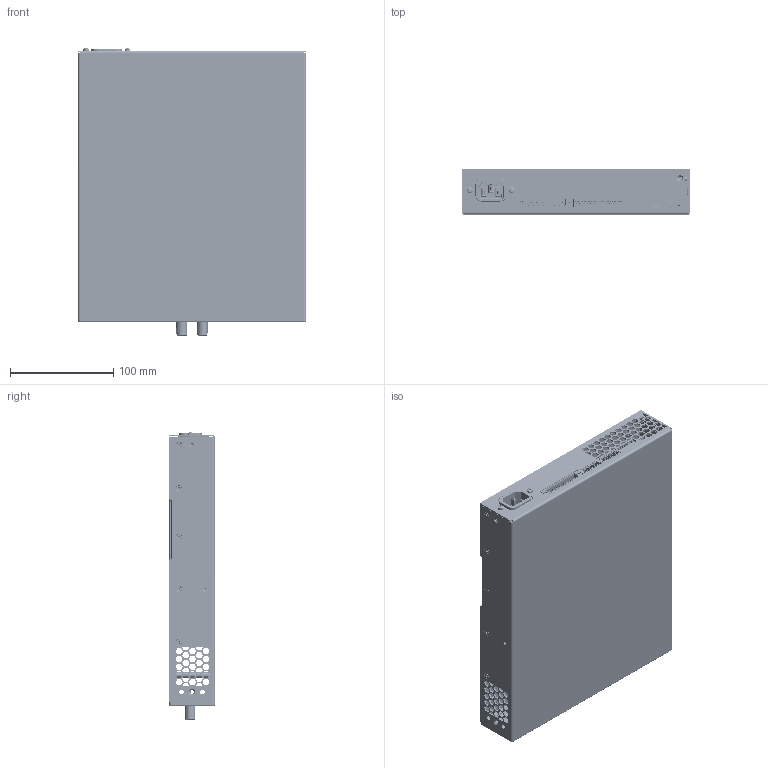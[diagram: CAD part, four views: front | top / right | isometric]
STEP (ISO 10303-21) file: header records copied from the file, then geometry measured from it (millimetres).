
FILE_DESCRIPTION (( 'STEP AP214' ), '1' );
FILE_NAME ('Blaze PowerZone 252 Amplifier.STEP', '2025-01-14T10:30:30', ( '' ), ( '' ), 'SwSTEP 2.0', 'SolidWorks 2024', '' );
FILE_SCHEMA (( 'AUTOMOTIVE_DESIGN' ));
Length unit declared in the file: millimetre
Products named in the file (2): for export_defeature^900-019-22; Blaze PowerZone 252 Amplifier
Assembly tree (1 placements, depth 2):
  Blaze PowerZone 252 Amplifier
    for export_defeature^900-019-22
Bounding box: 220.4 x 43.9 x 277.5 mm (x, y, z)
Surface area: 358757.3 mm2 (no closed solid volume)
Topology: 0 solids, 326 shells, 10206 faces, 26287 edges, 16481 vertices
Faces by surface type: plane 5683, cylinder 2426, bspline 1196, sphere 343, cone 308, torus 250
Entity records: 365883 total; most frequent: CARTESIAN_POINT 127483, ORIENTED_EDGE 50636, DIRECTION 44749, EDGE_CURVE 25876, LINE 16635, VECTOR 16635, VERTEX_POINT 16477, AXIS2_PLACEMENT_3D 14057
